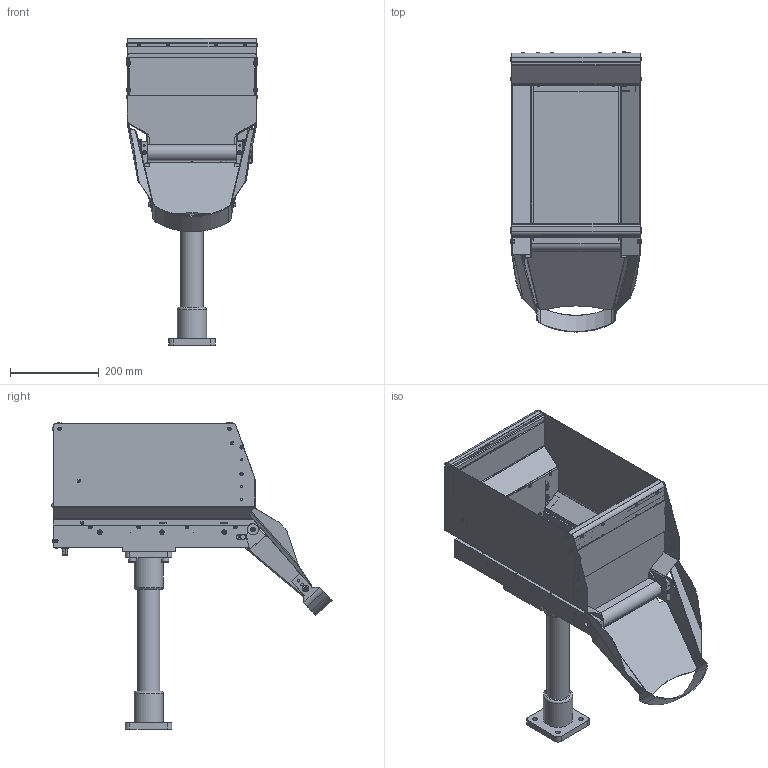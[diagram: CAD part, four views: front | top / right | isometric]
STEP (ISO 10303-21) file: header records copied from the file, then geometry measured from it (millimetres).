
FILE_DESCRIPTION(/* description */ ('©Copyright 2022 – UrheberrechtshinweisDiese CAD-Daten sind urheberrechtlich geschützt. Das Urheberrecht liegt, soweit nicht ausdrücklich anders gekennzeichnet, bei Stöger Automation GmbH.Bitte fragen Sie uns, falls Sie die CAD-Daten vervielfältigen oder zu'),/* implementation_level */ '2;1');
FILE_NAME(/* name */ 'C:\Users\Kraft\Desktop\Bauteil5.stp',/* time_stamp */ '2022-07-08T12:00:45+02:00',/* author */ ('Stöger Automation GmbH'),/* organization */ ('Stöger Automation GmbH'),/* preprocessor_version */ 'ST-DEVELOPER v18.1',/* originating_system */ 'Autodesk Inventor 2021',/* authorisation */ '');
FILE_SCHEMA (('AUTOMOTIVE_DESIGN { 1 0 10303 214 3 1 1 }'));
Products named in the file (1): Bauteil5
Bounding box: 297.33 x 631.34 x 690.05 mm (x, y, z)
Volume: 4370601.2 mm3; surface area: 2107349.9 mm2
Topology: 4 solids, 85 shells, 3462 faces, 8894 edges, 5696 vertices
Faces by surface type: plane 1888, cylinder 801, cone 608, torus 93, bspline 72
Full cylindrical faces by diameter (mm): 1 x4, 1.4 x4, 2.2 x5, 3.242 x58, 4 x58, 4.134 x10, 4.2 x4, 4.3 x4, 4.5 x58, 4.917 x6, 5 x16, 5.2 x3, 5.3 x2, 5.4 x3, 5.5 x16, 6 x10, 6.2 x2, 6.4 x2, 6.6 x4, 7 x11, 7.5 x2, 7.6 x27, 8 x11, 8.5 x8, 9 x4, 9.5 x5, 10 x22, 10.3 x1, 10.5 x8, 10.7 x3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
Entity records: 107011 total; most frequent: CARTESIAN_POINT 26742, ORIENTED_EDGE 17556, DIRECTION 16236, EDGE_CURVE 8778, AXIS2_PLACEMENT_3D 6242, VERTEX_POINT 5696, EDGE_LOOP 4094, LINE 3752
